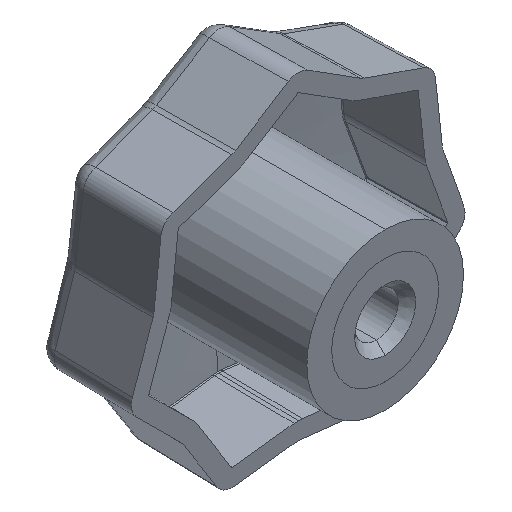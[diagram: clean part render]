
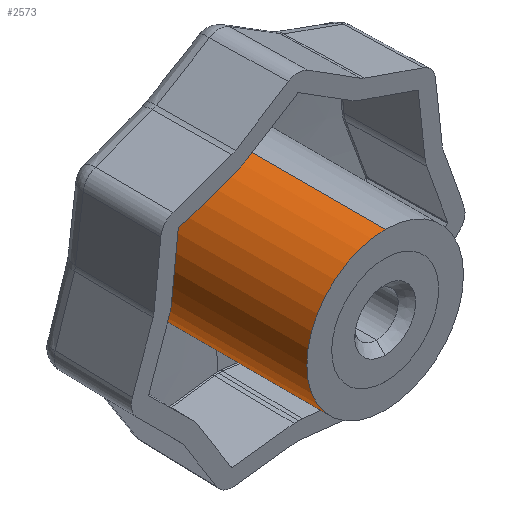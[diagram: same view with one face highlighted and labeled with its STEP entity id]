
A CAD part, isometric view. The second image highlights one B-rep face of the part: STEP entity #2573.
In plain terms, the highlighted cylindrical face has radius 9 mm (diameter 18 mm), a partial arc.
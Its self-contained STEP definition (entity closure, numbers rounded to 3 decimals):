
#113 = VERTEX_POINT ( 'NONE', #2152 ) ;
#116 = DIRECTION ( 'NONE',  ( 0., 0., 1. ) ) ;
#137 = DIRECTION ( 'NONE',  ( 0., 1., 0. ) ) ;
#149 = CARTESIAN_POINT ( 'NONE',  ( 0., -10., 0. ) ) ;
#403 = EDGE_CURVE ( 'NONE', #2191, #113, #1231, .T. ) ;
#694 = CARTESIAN_POINT ( 'NONE',  ( 0., 9.542, -9. ) ) ;
#965 = VECTOR ( 'NONE', #2909, 1000. ) ;
#979 = CARTESIAN_POINT ( 'NONE',  ( 0., 9.542, 0. ) ) ;
#1098 = LINE ( 'NONE', #4419, #965 ) ;
#1126 = EDGE_LOOP ( 'NONE', ( #1686, #1393, #4349, #4021 ) ) ;
#1231 = CIRCLE ( 'NONE', #4700, 9. ) ;
#1336 = LINE ( 'NONE', #3234, #1458 ) ;
#1363 = DIRECTION ( 'NONE',  ( 0., 0., -1. ) ) ;
#1375 = DIRECTION ( 'NONE',  ( 0., 0., -1. ) ) ;
#1393 = ORIENTED_EDGE ( 'NONE', *, *, #3417, .T. ) ;
#1458 = VECTOR ( 'NONE', #2843, 1000. ) ;
#1686 = ORIENTED_EDGE ( 'NONE', *, *, #2997, .F. ) ;
#2034 = CIRCLE ( 'NONE', #3090, 9. ) ;
#2152 = CARTESIAN_POINT ( 'NONE',  ( 0., -10., 9. ) ) ;
#2191 = VERTEX_POINT ( 'NONE', #2320 ) ;
#2320 = CARTESIAN_POINT ( 'NONE',  ( 0., -10., -9. ) ) ;
#2573 = ADVANCED_FACE ( 'NONE', ( #2769 ), #4664, .T. ) ;
#2751 = CARTESIAN_POINT ( 'NONE',  ( 0., 9.542, 9. ) ) ;
#2769 = FACE_OUTER_BOUND ( 'NONE', #1126, .T. ) ;
#2843 = DIRECTION ( 'NONE',  ( 0., -1., 0. ) ) ;
#2897 = CARTESIAN_POINT ( 'NONE',  ( 0., 12.001, 0. ) ) ;
#2909 = DIRECTION ( 'NONE',  ( 0., -1., 0. ) ) ;
#2997 = EDGE_CURVE ( 'NONE', #4166, #113, #1336, .T. ) ;
#3090 = AXIS2_PLACEMENT_3D ( 'NONE', #979, #3648, #1375 ) ;
#3117 = EDGE_CURVE ( 'NONE', #3221, #2191, #1098, .T. ) ;
#3221 = VERTEX_POINT ( 'NONE', #694 ) ;
#3234 = CARTESIAN_POINT ( 'NONE',  ( 0., 12.001, 9. ) ) ;
#3289 = DIRECTION ( 'NONE',  ( 0., -1., 0. ) ) ;
#3417 = EDGE_CURVE ( 'NONE', #4166, #3221, #2034, .T. ) ;
#3648 = DIRECTION ( 'NONE',  ( 0., -1., 0. ) ) ;
#3981 = AXIS2_PLACEMENT_3D ( 'NONE', #2897, #3289, #1363 ) ;
#4021 = ORIENTED_EDGE ( 'NONE', *, *, #403, .T. ) ;
#4166 = VERTEX_POINT ( 'NONE', #2751 ) ;
#4349 = ORIENTED_EDGE ( 'NONE', *, *, #3117, .T. ) ;
#4419 = CARTESIAN_POINT ( 'NONE',  ( 0., 12.001, -9. ) ) ;
#4664 = CYLINDRICAL_SURFACE ( 'NONE', #3981, 9. ) ;
#4700 = AXIS2_PLACEMENT_3D ( 'NONE', #149, #137, #116 ) ;
